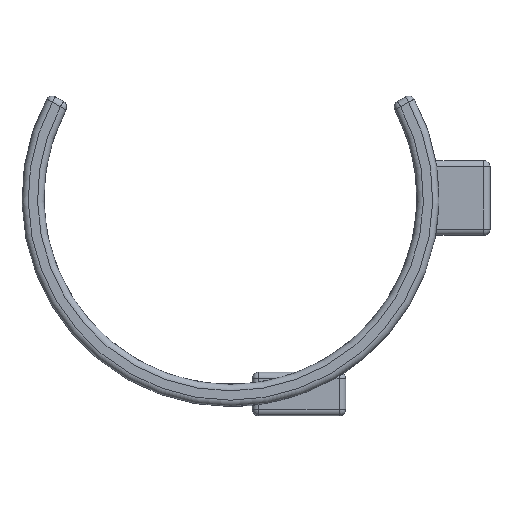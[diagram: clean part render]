
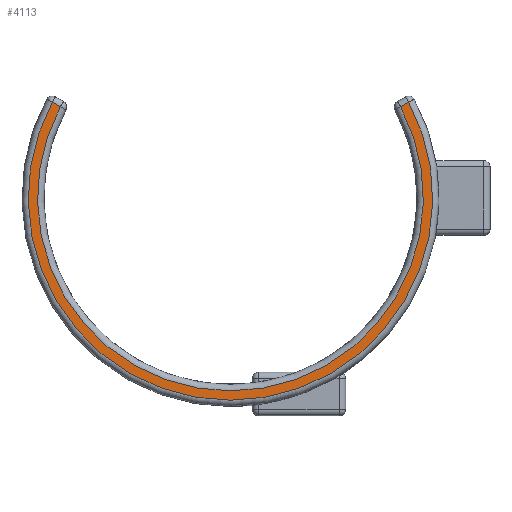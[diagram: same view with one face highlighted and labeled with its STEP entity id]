
A CAD part, top view. The second image highlights one B-rep face of the part: STEP entity #4113.
In plain terms, the highlighted planar face has unit normal (0, 0, 1).
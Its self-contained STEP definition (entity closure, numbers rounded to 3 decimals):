
#128 = TOROIDAL_SURFACE('',#129,65.,2.);
#129 = AXIS2_PLACEMENT_3D('',#130,#131,#132);
#130 = CARTESIAN_POINT('',(0.,0.,-228.));
#131 = DIRECTION('',(-0.,-0.,1.));
#132 = DIRECTION('',(-0.866,0.5,-0.));
#1891 = VERTEX_POINT('',#1892);
#1892 = CARTESIAN_POINT('',(-57.265,30.753,-226.));
#1916 = VERTEX_POINT('',#1917);
#1917 = CARTESIAN_POINT('',(57.265,30.753,-226.));
#1944 = EDGE_CURVE('',#1891,#1916,#1945,.T.);
#1945 = SURFACE_CURVE('',#1946,(#1951,#1958),.PCURVE_S1.);
#1946 = CIRCLE('',#1947,65.);
#1947 = AXIS2_PLACEMENT_3D('',#1948,#1949,#1950);
#1948 = CARTESIAN_POINT('',(0.,0.,-226.));
#1949 = DIRECTION('',(-0.,0.,1.));
#1950 = DIRECTION('',(-0.866,0.5,-0.));
#1951 = PCURVE('',#128,#1952);
#1952 = DEFINITIONAL_REPRESENTATION('',(#1953),#1957);
#1953 = LINE('',#1954,#1955);
#1954 = CARTESIAN_POINT('',(0.,1.571));
#1955 = VECTOR('',#1956,1.);
#1956 = DIRECTION('',(1.,0.));
#1957 = ( GEOMETRIC_REPRESENTATION_CONTEXT(2) 
PARAMETRIC_REPRESENTATION_CONTEXT() REPRESENTATION_CONTEXT('2D SPACE',''
  ) );
#1958 = PCURVE('',#1959,#1964);
#1959 = PLANE('',#1960);
#1960 = AXIS2_PLACEMENT_3D('',#1961,#1962,#1963);
#1961 = CARTESIAN_POINT('',(0.,-20.421,-226.));
#1962 = DIRECTION('',(-0.,-0.,-1.));
#1963 = DIRECTION('',(-1.,0.,0.));
#1964 = DEFINITIONAL_REPRESENTATION('',(#1965),#1973);
#1965 = ( BOUNDED_CURVE() B_SPLINE_CURVE(2,(#1966,#1967,#1968,#1969,
#1970,#1971,#1972),.UNSPECIFIED.,.T.,.F.) B_SPLINE_CURVE_WITH_KNOTS((1,2
    ,2,2,2,1),(-2.094,0.,2.094,4.189,
6.283,8.378),.UNSPECIFIED.) CURVE() 
GEOMETRIC_REPRESENTATION_ITEM() RATIONAL_B_SPLINE_CURVE((1.,0.5,1.,0.5,
1.,0.5,1.)) REPRESENTATION_ITEM('') );
#1966 = CARTESIAN_POINT('',(56.292,52.921));
#1967 = CARTESIAN_POINT('',(112.583,-44.579));
#1968 = CARTESIAN_POINT('',(0.,-44.579));
#1969 = CARTESIAN_POINT('',(-112.583,-44.579));
#1970 = CARTESIAN_POINT('',(-56.292,52.921));
#1971 = CARTESIAN_POINT('',(0.,150.421));
#1972 = CARTESIAN_POINT('',(56.292,52.921));
#1973 = ( GEOMETRIC_REPRESENTATION_CONTEXT(2) 
PARAMETRIC_REPRESENTATION_CONTEXT() REPRESENTATION_CONTEXT('2D SPACE',''
  ) );
#3993 = CYLINDRICAL_SURFACE('',#3994,2.);
#3994 = AXIS2_PLACEMENT_3D('',#3995,#3996,#3997);
#3995 = CARTESIAN_POINT('',(-52.962,28.268,-228.));
#3996 = DIRECTION('',(-0.866,0.5,-0.));
#3997 = DIRECTION('',(0.5,0.866,-0.));
#4113 = ADVANCED_FACE('',(#4114),#1959,.F.);
#4114 = FACE_BOUND('',#4115,.T.);
#4115 = EDGE_LOOP('',(#4116,#4117,#4145,#4174));
#4116 = ORIENTED_EDGE('',*,*,#1944,.T.);
#4117 = ORIENTED_EDGE('',*,*,#4118,.T.);
#4118 = EDGE_CURVE('',#1916,#4119,#4121,.T.);
#4119 = VERTEX_POINT('',#4120);
#4120 = CARTESIAN_POINT('',(54.666,29.252,-226.));
#4121 = SURFACE_CURVE('',#4122,(#4126,#4133),.PCURVE_S1.);
#4122 = LINE('',#4123,#4124);
#4123 = CARTESIAN_POINT('',(59.024,31.768,-226.));
#4124 = VECTOR('',#4125,1.);
#4125 = DIRECTION('',(-0.866,-0.5,-0.));
#4126 = PCURVE('',#1959,#4127);
#4127 = DEFINITIONAL_REPRESENTATION('',(#4128),#4132);
#4128 = LINE('',#4129,#4130);
#4129 = CARTESIAN_POINT('',(-59.024,52.189));
#4130 = VECTOR('',#4131,1.);
#4131 = DIRECTION('',(0.866,-0.5));
#4132 = ( GEOMETRIC_REPRESENTATION_CONTEXT(2) 
PARAMETRIC_REPRESENTATION_CONTEXT() REPRESENTATION_CONTEXT('2D SPACE',''
  ) );
#4133 = PCURVE('',#4134,#4139);
#4134 = CYLINDRICAL_SURFACE('',#4135,2.);
#4135 = AXIS2_PLACEMENT_3D('',#4136,#4137,#4138);
#4136 = CARTESIAN_POINT('',(59.024,31.768,-228.));
#4137 = DIRECTION('',(-0.866,-0.5,-0.));
#4138 = DIRECTION('',(-0.5,0.866,-0.));
#4139 = DEFINITIONAL_REPRESENTATION('',(#4140),#4144);
#4140 = LINE('',#4141,#4142);
#4141 = CARTESIAN_POINT('',(-1.571,0.));
#4142 = VECTOR('',#4143,1.);
#4143 = DIRECTION('',(-0.,1.));
#4144 = ( GEOMETRIC_REPRESENTATION_CONTEXT(2) 
PARAMETRIC_REPRESENTATION_CONTEXT() REPRESENTATION_CONTEXT('2D SPACE',''
  ) );
#4145 = ORIENTED_EDGE('',*,*,#4146,.T.);
#4146 = EDGE_CURVE('',#4119,#4147,#4149,.T.);
#4147 = VERTEX_POINT('',#4148);
#4148 = CARTESIAN_POINT('',(-54.666,29.252,-226.));
#4149 = SURFACE_CURVE('',#4150,(#4155,#4162),.PCURVE_S1.);
#4150 = CIRCLE('',#4151,62.);
#4151 = AXIS2_PLACEMENT_3D('',#4152,#4153,#4154);
#4152 = CARTESIAN_POINT('',(0.,0.,-226.)
  );
#4153 = DIRECTION('',(-0.,0.,-1.));
#4154 = DIRECTION('',(0.866,0.5,-0.));
#4155 = PCURVE('',#1959,#4156);
#4156 = DEFINITIONAL_REPRESENTATION('',(#4157),#4161);
#4157 = CIRCLE('',#4158,62.);
#4158 = AXIS2_PLACEMENT_2D('',#4159,#4160);
#4159 = CARTESIAN_POINT('',(0.,20.421));
#4160 = DIRECTION('',(-0.866,0.5));
#4161 = ( GEOMETRIC_REPRESENTATION_CONTEXT(2) 
PARAMETRIC_REPRESENTATION_CONTEXT() REPRESENTATION_CONTEXT('2D SPACE',''
  ) );
#4162 = PCURVE('',#4163,#4168);
#4163 = TOROIDAL_SURFACE('',#4164,62.,2.);
#4164 = AXIS2_PLACEMENT_3D('',#4165,#4166,#4167);
#4165 = CARTESIAN_POINT('',(0.,0.,-228.)
  );
#4166 = DIRECTION('',(-0.,-0.,-1.));
#4167 = DIRECTION('',(0.866,0.5,-0.));
#4168 = DEFINITIONAL_REPRESENTATION('',(#4169),#4173);
#4169 = LINE('',#4170,#4171);
#4170 = CARTESIAN_POINT('',(0.,4.712));
#4171 = VECTOR('',#4172,1.);
#4172 = DIRECTION('',(1.,0.));
#4173 = ( GEOMETRIC_REPRESENTATION_CONTEXT(2) 
PARAMETRIC_REPRESENTATION_CONTEXT() REPRESENTATION_CONTEXT('2D SPACE',''
  ) );
#4174 = ORIENTED_EDGE('',*,*,#4175,.T.);
#4175 = EDGE_CURVE('',#4147,#1891,#4176,.T.);
#4176 = SURFACE_CURVE('',#4177,(#4181,#4188),.PCURVE_S1.);
#4177 = LINE('',#4178,#4179);
#4178 = CARTESIAN_POINT('',(-52.962,28.268,-226.));
#4179 = VECTOR('',#4180,1.);
#4180 = DIRECTION('',(-0.866,0.5,-0.));
#4181 = PCURVE('',#1959,#4182);
#4182 = DEFINITIONAL_REPRESENTATION('',(#4183),#4187);
#4183 = LINE('',#4184,#4185);
#4184 = CARTESIAN_POINT('',(52.962,48.689));
#4185 = VECTOR('',#4186,1.);
#4186 = DIRECTION('',(0.866,0.5));
#4187 = ( GEOMETRIC_REPRESENTATION_CONTEXT(2) 
PARAMETRIC_REPRESENTATION_CONTEXT() REPRESENTATION_CONTEXT('2D SPACE',''
  ) );
#4188 = PCURVE('',#3993,#4189);
#4189 = DEFINITIONAL_REPRESENTATION('',(#4190),#4194);
#4190 = LINE('',#4191,#4192);
#4191 = CARTESIAN_POINT('',(-1.571,0.));
#4192 = VECTOR('',#4193,1.);
#4193 = DIRECTION('',(-0.,1.));
#4194 = ( GEOMETRIC_REPRESENTATION_CONTEXT(2) 
PARAMETRIC_REPRESENTATION_CONTEXT() REPRESENTATION_CONTEXT('2D SPACE',''
  ) );
